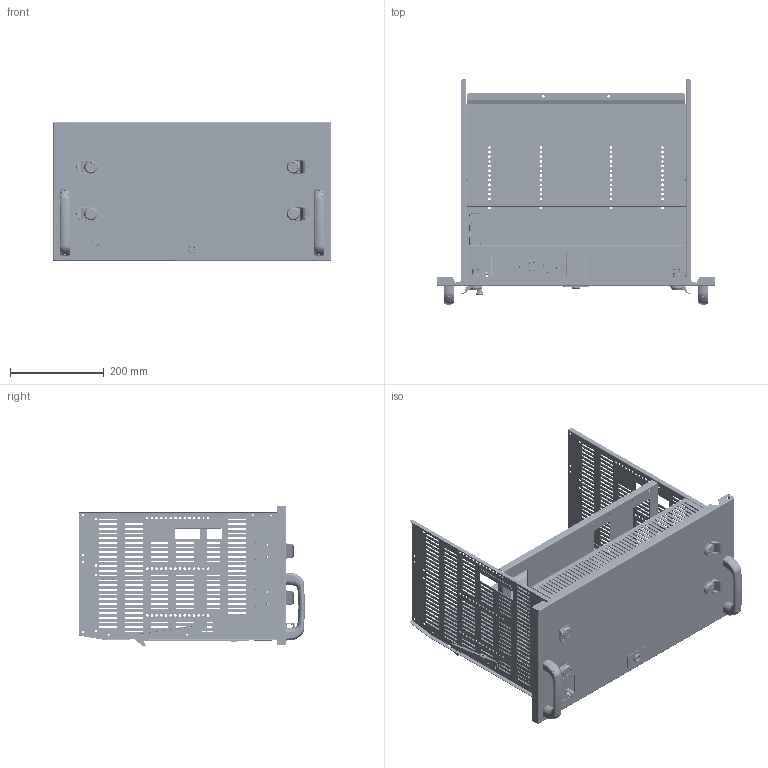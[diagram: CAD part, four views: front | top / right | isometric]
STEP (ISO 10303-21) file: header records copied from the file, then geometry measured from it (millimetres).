
FILE_DESCRIPTION(('CAx-IF Rec.Pracs.---Model Styling and Organization---1.2---2011-12-15','CAx-IF Rec.Pracs.---Geometric and Assembly Validation Properties---4.1---2014-06-16','CAx-IF Rec.Pracs.---PMI Polyline Presentation---2.0---2013-05-24'),'2;1');
FILE_NAME('R5M2W6M1B-L.stp','2021-05-05T12:32:48+03:00',(''),(''),'STEP Interface 4.4 by CT CoreTechnologie','3D_Evolution4.4 by CT CoreTechnologie','');
FILE_SCHEMA(('AUTOMOTIVE_DESIGN { 1 0 10303 214 1 1 1 1 }'));
Length unit declared in the file: millimetre
Products named in the file (73): R5M2W6M1B; RB.1505.00.00.1 ÑÁ; RB.1505.00.05.0_-00; RB.1505.00.06.0; RB.1500.00.00.1 ÑÁ_-00 (ëª«); RB.1500.00.03.0; RB.1500.00.04.1_-00; RB.1500.00.05.1; RB.1500.00.06.0; RB.1500.00.07.0; RB.1500.00.08.1; M6-DIN 985 (ISO 10511) (CM250600)_stright; Ì4-GOST R 50273-92 (DIN 985)_stright DIN EN ISO 10511 - M4 - N; M4x25 GOST 17473-80 (DIN 7985)_stright; RB.1505.00.02.0; M5x12-DIN 7500M ISR_stright; RB.1505.00.01.1; RB.1504.00.00.1 ÑÁ; RB.1504.01.00.0 ÑÁ; RB.1504.01.01.0; RB.1504.00.01.1; RB.1504.00.02.1_-01; RB.1504.00.02.1_-00; RB.1504.00.03.1; RB.1505.00.03.0_-00; A.6.01-GOST 11371-78 (DIN 125A) (CM240600)_ ©¡  A.6.016  11371-78; RB.1513.00.00.0; M5x8-DIN7500C_stright; RB.1505.00.04.0_-00; RB.1503.00.00.0 ÑÁ; RB.1503.00.02.0_-00; RB.1503.00.03.0_123; RB.1503.00.04.0_123; RB.1503.00.05.0_123; RB.1503.00.06.0_-00; RB.1503.00.07.0_-00; RB.1503.00.08.0_'­ ª«¥¥­­ ï'; RB.1503.00.01.0_-00; AC00C148_AC00C148; 4.444.002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
Assembly tree (116 placements, depth 5):
  R5M2W6M1B
    RB.1505.00.00.1 ÑÁ
      RB.1505.00.05.0_-00
      RB.1505.00.06.0
      RB.1500.00.00.1 ÑÁ_-00 (ëª«)
        RB.1500.00.03.0
        RB.1500.00.04.1_-00
        RB.1500.00.05.1
        RB.1500.00.06.0
        RB.1500.00.07.0
        RB.1500.00.08.1
        M6-DIN 985 (ISO 10511) (CM250600)_stright
        Ì4-GOST R 50273-92 (DIN 985)_stright DIN EN ISO 10511 - M4 - N
        M4x25 GOST 17473-80 (DIN 7985)_stright
      RB.1505.00.02.0  x2
      Ì4-GOST R 50273-92 (DIN 985)_stright DIN EN ISO 10511 - M4 - N  x10
      M5x12-DIN 7500M ISR_stright  x6
      RB.1505.00.01.1
      RB.1504.00.00.1 ÑÁ
        RB.1504.01.00.0 ÑÁ
          RB.1504.01.01.0
        RB.1504.00.01.1
        RB.1504.00.02.1_-01
        RB.1504.00.02.1_-00
        RB.1504.00.03.1
      M6-DIN 985 (ISO 10511) (CM250600)_stright
      RB.1505.00.03.0_-00
      A.6.01-GOST 11371-78 (DIN 125A) (CM240600)_ ©¡  A.6.016  11371-78
      RB.1513.00.00.0
      M5x8-DIN7500C_stright  x2
      RB.1505.00.04.0_-00
      RB.1503.00.00.0 ÑÁ
        RB.1503.00.02.0_-00
        RB.1503.00.03.0_123
        RB.1503.00.04.0_123
        RB.1503.00.05.0_123
        RB.1503.00.06.0_-00
        RB.1503.00.07.0_-00
        RB.1503.00.01.0_-00
    AC00C148_AC00C148  x3
    4.444.002  x2
      PR.DT477.120.02-poprawa
      PR.DT477.120.01
    M6x20 GOST 17475-80 (DIN 965)_stright  x2
    RB.1943.00.00.0_-03
      RB.1499.00.02.0_-00  x3
      M6 art.MGR-MKO-0625_2¬¬  x3
      RB.1499.00.04.0_-00
      RB.1943.00.01.0_-03
    RB.1497.00.00.0 ÑÁ_-00
      RB.1419.00.02.0_-02
      RB.1497.00.06.0_-00
      RB.1497.00.03.0_-00
      M5x8-DIN7500C_stright  x2
      RB.1497.00.01.0_-00
      RB.1497.00.02.0
      RB.1497.00.04.0_-00
      Ì4-GOST R 50273-92 (DIN 985)_stright DIN EN ISO 10511 - M4 - N  x5
      M5x10-GOST 11738-84 (DIN 912)_stright  x2
      RB.1419.00.02.0_-01
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Bounding box: 594 x 482.84 x 298.93 mm (x, y, z)
Surface area: 1989555.7 mm2 (no closed solid volume)
Topology: 0 solids, 166 shells, 6563 faces, 17447 edges, 11101 vertices
Faces by surface type: plane 3552, cylinder 1764, bspline 1247
Full cylindrical faces by diameter (mm): 3.2 x2
Entity records: 171212 total; most frequent: CARTESIAN_POINT 44634, ORIENTED_EDGE 25866, DIRECTION 24477, EDGE_CURVE 12955, VECTOR 9311, LINE 9311, VERTEX_POINT 8384, AXIS2_PLACEMENT_3D 7583
